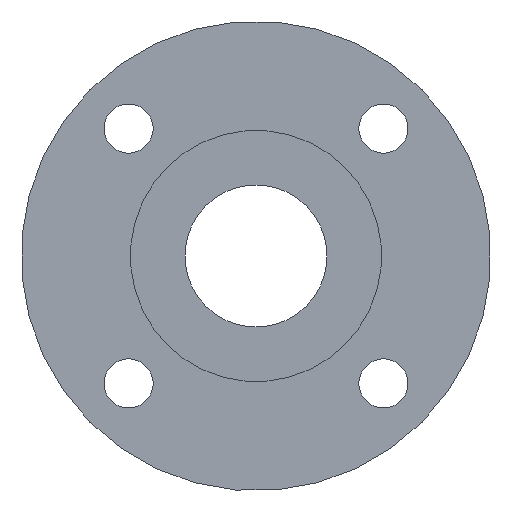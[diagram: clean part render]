
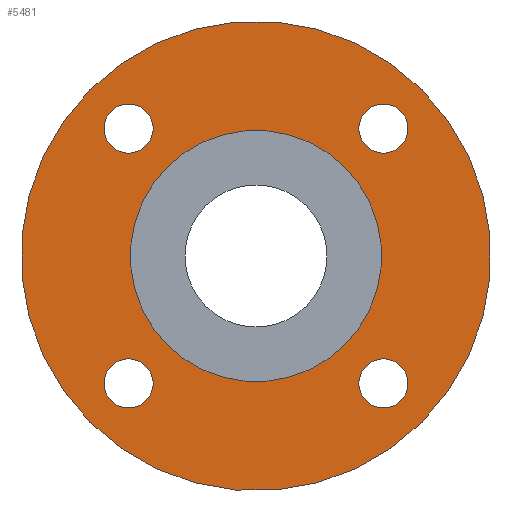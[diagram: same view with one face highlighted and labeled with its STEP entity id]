
A CAD part, left-side view. The second image highlights one B-rep face of the part: STEP entity #5481.
In plain terms, the highlighted planar face has unit normal (-1, 0, 0).
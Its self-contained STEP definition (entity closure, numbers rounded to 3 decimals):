
#112=CIRCLE('',#5829,11.5);
#114=CIRCLE('',#5834,21.5);
#115=CIRCLE('',#5836,2.25);
#116=CIRCLE('',#5837,2.25);
#117=CIRCLE('',#5838,2.25);
#118=CIRCLE('',#5839,2.25);
#1674=ORIENTED_EDGE('',*,*,#3254,.T.);
#1675=ORIENTED_EDGE('',*,*,#3255,.T.);
#1676=ORIENTED_EDGE('',*,*,#3256,.T.);
#1677=ORIENTED_EDGE('',*,*,#3257,.T.);
#1678=ORIENTED_EDGE('',*,*,#3251,.F.);
#1679=ORIENTED_EDGE('',*,*,#3253,.F.);
#3251=EDGE_CURVE('',#4043,#4043,#112,.F.);
#3253=EDGE_CURVE('',#4045,#4045,#114,.T.);
#3254=EDGE_CURVE('',#4046,#4046,#115,.T.);
#3255=EDGE_CURVE('',#4047,#4047,#116,.T.);
#3256=EDGE_CURVE('',#4048,#4048,#117,.T.);
#3257=EDGE_CURVE('',#4049,#4049,#118,.T.);
#4043=VERTEX_POINT('',#8701);
#4045=VERTEX_POINT('',#8708);
#4046=VERTEX_POINT('',#8711);
#4047=VERTEX_POINT('',#8713);
#4048=VERTEX_POINT('',#8715);
#4049=VERTEX_POINT('',#8717);
#4501=EDGE_LOOP('',(#1674));
#4502=EDGE_LOOP('',(#1675));
#4503=EDGE_LOOP('',(#1676));
#4504=EDGE_LOOP('',(#1677));
#4505=EDGE_LOOP('',(#1678));
#4506=EDGE_LOOP('',(#1679));
#4893=FACE_BOUND('',#4501,.T.);
#4894=FACE_BOUND('',#4502,.T.);
#4895=FACE_BOUND('',#4503,.T.);
#4896=FACE_BOUND('',#4504,.T.);
#4897=FACE_BOUND('',#4505,.T.);
#4898=FACE_BOUND('',#4506,.T.);
#5232=PLANE('',#5835);
#5481=ADVANCED_FACE('',(#4893,#4894,#4895,#4896,#4897,#4898),#5232,.F.);
#5829=AXIS2_PLACEMENT_3D('',#8700,#6332,#6333);
#5834=AXIS2_PLACEMENT_3D('',#8707,#6342,#6343);
#5835=AXIS2_PLACEMENT_3D('',#8709,#6344,#6345);
#5836=AXIS2_PLACEMENT_3D('',#8710,#6346,#6347);
#5837=AXIS2_PLACEMENT_3D('',#8712,#6348,#6349);
#5838=AXIS2_PLACEMENT_3D('',#8714,#6350,#6351);
#5839=AXIS2_PLACEMENT_3D('',#8716,#6352,#6353);
#6332=DIRECTION('',(1.,0.,0.));
#6333=DIRECTION('',(0.,0.707,-0.707));
#6342=DIRECTION('',(1.,0.,0.));
#6343=DIRECTION('',(0.,0.707,-0.707));
#6344=DIRECTION('',(1.,0.,0.));
#6345=DIRECTION('',(0.,0.707,-0.707));
#6346=DIRECTION('',(1.,0.,0.));
#6347=DIRECTION('',(0.,0.707,-0.707));
#6348=DIRECTION('',(1.,0.,0.));
#6349=DIRECTION('',(0.,0.707,-0.707));
#6350=DIRECTION('',(1.,0.,0.));
#6351=DIRECTION('',(0.,0.707,-0.707));
#6352=DIRECTION('',(1.,0.,0.));
#6353=DIRECTION('',(0.,0.707,-0.707));
#8700=CARTESIAN_POINT('',(10.,0.,0.));
#8701=CARTESIAN_POINT('',(10.,8.132,-8.132));
#8707=CARTESIAN_POINT('',(10.,0.,0.));
#8708=CARTESIAN_POINT('',(10.,15.203,-15.203));
#8709=CARTESIAN_POINT('',(10.,0.,0.));
#8710=CARTESIAN_POINT('',(10.,11.667,-11.667));
#8711=CARTESIAN_POINT('',(10.,13.258,-13.258));
#8712=CARTESIAN_POINT('',(10.,-11.667,-11.667));
#8713=CARTESIAN_POINT('',(10.,-10.076,-13.258));
#8714=CARTESIAN_POINT('',(10.,-11.667,11.667));
#8715=CARTESIAN_POINT('',(10.,-10.076,10.076));
#8716=CARTESIAN_POINT('',(10.,11.667,11.667));
#8717=CARTESIAN_POINT('',(10.,13.258,10.076));
